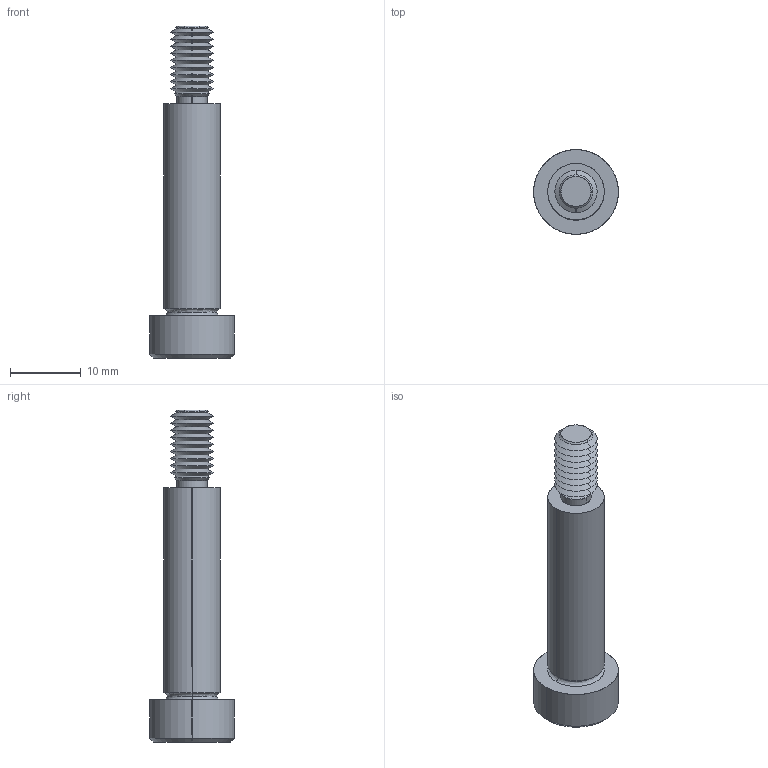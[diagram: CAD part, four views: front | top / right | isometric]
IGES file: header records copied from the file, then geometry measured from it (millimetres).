
Start section: SolidWorks IGES file using analytic representation for surfaces
Global section: file name: C:\Users\IanO\Documents\Temp Folder\GENERAL\SCREW REVISION\P0130_v2\P0130.T5_v2_20220106_IGES\P0130.080-030-T5.igs; native system: SolidWorks 2019; preprocessor: SolidWorks 2019; author: IanO; date: 220106.223500; units: millimetre
Bounding box: 12 x 12 x 47 mm (x, y, z)
Surface area: 1590.2 mm2 (no closed solid volume)
Topology: 0 solids, 0 shells, 80 faces, 580 edges, 578 vertices
Faces by surface type: revolution 60, bspline 20
